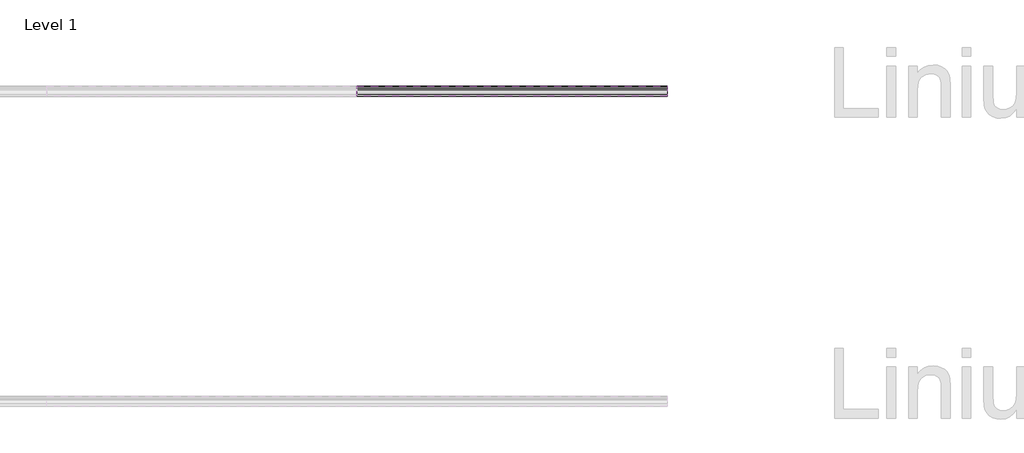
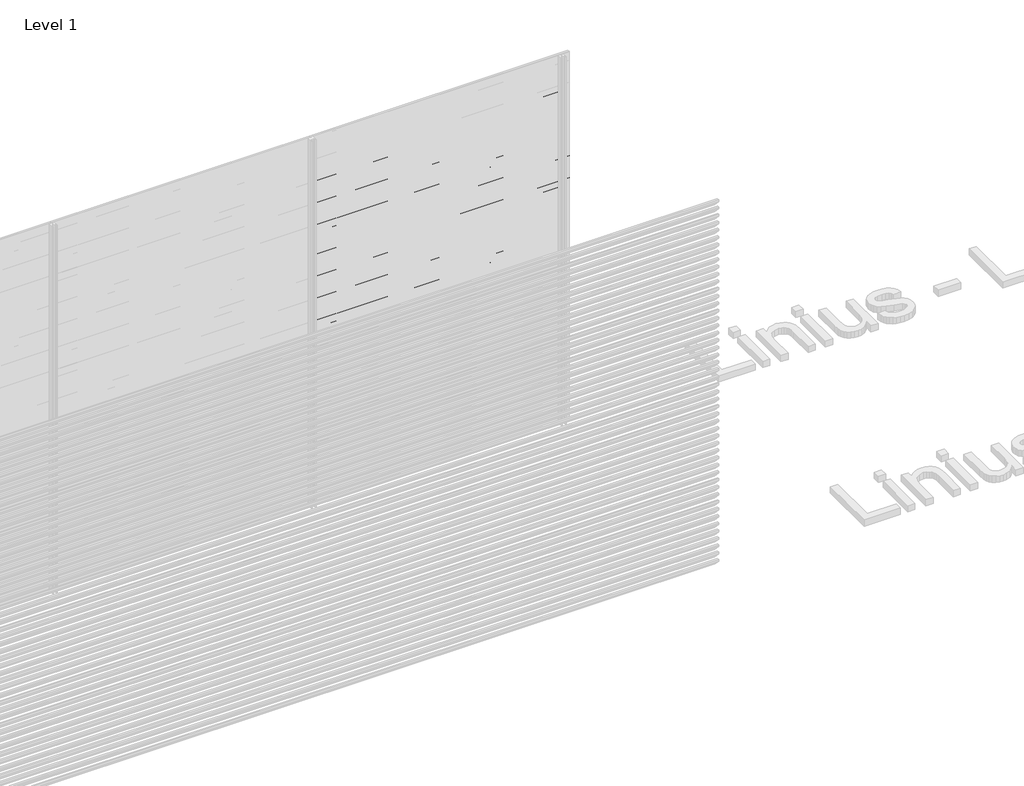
# One storey, part 122 of 153: 33 proxies.
"""IFC4 building model written with IfcOpenShell, lengths in millimetres."""

from ifc_helpers import new_model, si_unit, point, frame, frame_2d, origin, place, context, project, spatial, polyline, circle_curve, trimmed, segment, composite_curve, outline, extrude, element, save

model = new_model("IFC4")

# Units and contexts
model_context = context("Model", 3, world=origin())
ifc_project = project(units=[si_unit("LENGTHUNIT", "METRE", prefix="MILLI")], contexts=[model_context])

# Site, building, storey
site = spatial("IfcSite", under=ifc_project)
building = spatial("IfcBuilding", under=site)
storey = spatial("IfcBuildingStorey", under=building, Name="Level 1", Elevation=0.0)

# Proxies
placement = place(None, origin())
element("IfcBuildingElementProxy", 1, Name="Wall Sweeps", at=placement, inside=storey, context=model_context, shape_type="SweptSolid", body=[
    extrude(outline(composite_curve([segment(polyline([(58985.0540136, 2700.0), (58999.874191, 2698.7034025), (59049.0540136, 2645.0102749), (59049.0540136, 2633.6108187)]), True, "CONTINUOUS"), segment(trimmed(circle_curve(frame_2d((59045.7883652, 2633.897153)), 3.2781774), [point((59049.0540136, 2633.6108187))], [point((59046.4639442, 2630.6893438))], False, "CARTESIAN"), True, "CONTINUOUS"), segment(polyline([(59046.4639442, 2630.6893438), (59034.1895723, 2631.6282758), (58985.0540136, 2685.2730773), (58985.0540136, 2700.0)]), True, "CONTINUOUS")], self_intersect=False), holes=[composite_curve([segment(polyline([(58999.1621773, 2697.2599659), (58986.5540136, 2698.3630372), (58986.5540136, 2685.856213), (59034.8952036, 2633.0786805), (59046.3312542, 2632.2038762)]), True, "CONTINUOUS"), segment(trimmed(circle_curve(frame_2d((59045.7883652, 2633.897153)), 1.7781774), [point((59046.3312542, 2632.2038762))], [point((59047.5540136, 2633.6864389))], True, "CARTESIAN"), True, "CONTINUOUS"), segment(polyline([(59047.5540136, 2633.6864389), (59047.5540136, 2644.4271392), (58999.1621773, 2697.2599659)]), True, "CONTINUOUS")], self_intersect=False)]), frame((48966.6208096, 0.0, 0.0), z_axis=(1.0, 0.0, 0.0), x_axis=(0.0, 1.0, 0.0)), (0.0, 0.0, 1.0), 2000.0000001),
])
element("IfcBuildingElementProxy", 2, Name="Wall Sweeps", at=placement, inside=storey, context=model_context, shape_type="SweptSolid", body=[
    extrude(outline(composite_curve([segment(polyline([(58985.0540136, 2640.0), (58999.874191, 2638.7034025), (59049.0540136, 2585.0102749), (59049.0540136, 2573.6108187)]), True, "CONTINUOUS"), segment(trimmed(circle_curve(frame_2d((59045.7883652, 2573.897153)), 3.2781774), [point((59049.0540136, 2573.6108187))], [point((59046.4639442, 2570.6893438))], False, "CARTESIAN"), True, "CONTINUOUS"), segment(polyline([(59046.4639442, 2570.6893438), (59034.1895723, 2571.6282758), (58985.0540136, 2625.2730773), (58985.0540136, 2640.0)]), True, "CONTINUOUS")], self_intersect=False), holes=[composite_curve([segment(polyline([(58999.1621773, 2637.2599659), (58986.5540136, 2638.3630372), (58986.5540136, 2625.856213), (59034.8952036, 2573.0786805), (59046.3312542, 2572.2038762)]), True, "CONTINUOUS"), segment(trimmed(circle_curve(frame_2d((59045.7883652, 2573.897153)), 1.7781774), [point((59046.3312542, 2572.2038762))], [point((59047.5540136, 2573.6864389))], True, "CARTESIAN"), True, "CONTINUOUS"), segment(polyline([(59047.5540136, 2573.6864389), (59047.5540136, 2584.4271392), (58999.1621773, 2637.2599659)]), True, "CONTINUOUS")], self_intersect=False)]), frame((48966.6208096, 0.0, 0.0), z_axis=(1.0, 0.0, 0.0), x_axis=(0.0, 1.0, 0.0)), (0.0, 0.0, 1.0), 2000.0000001),
])
element("IfcBuildingElementProxy", 3, Name="Wall Sweeps", at=placement, inside=storey, context=model_context, shape_type="SweptSolid", body=[
    extrude(outline(composite_curve([segment(polyline([(58985.0540136, 2580.0), (58999.874191, 2578.7034025), (59049.0540136, 2525.0102749), (59049.0540136, 2513.6108187)]), True, "CONTINUOUS"), segment(trimmed(circle_curve(frame_2d((59045.7883652, 2513.897153)), 3.2781774), [point((59049.0540136, 2513.6108187))], [point((59046.4639442, 2510.6893438))], False, "CARTESIAN"), True, "CONTINUOUS"), segment(polyline([(59046.4639442, 2510.6893438), (59034.1895723, 2511.6282758), (58985.0540136, 2565.2730773), (58985.0540136, 2580.0)]), True, "CONTINUOUS")], self_intersect=False), holes=[composite_curve([segment(polyline([(58999.1621773, 2577.2599659), (58986.5540136, 2578.3630372), (58986.5540136, 2565.856213), (59034.8952036, 2513.0786805), (59046.3312542, 2512.2038762)]), True, "CONTINUOUS"), segment(trimmed(circle_curve(frame_2d((59045.7883652, 2513.897153)), 1.7781774), [point((59046.3312542, 2512.2038762))], [point((59047.5540136, 2513.6864389))], True, "CARTESIAN"), True, "CONTINUOUS"), segment(polyline([(59047.5540136, 2513.6864389), (59047.5540136, 2524.4271392), (58999.1621773, 2577.2599659)]), True, "CONTINUOUS")], self_intersect=False)]), frame((48966.6208096, 0.0, 0.0), z_axis=(1.0, 0.0, 0.0), x_axis=(0.0, 1.0, 0.0)), (0.0, 0.0, 1.0), 2000.0000001),
])
element("IfcBuildingElementProxy", 4, Name="Wall Sweeps", at=placement, inside=storey, context=model_context, shape_type="SweptSolid", body=[
    extrude(outline(composite_curve([segment(polyline([(58985.0540136, 2520.0), (58999.874191, 2518.7034025), (59049.0540136, 2465.0102749), (59049.0540136, 2453.6108187)]), True, "CONTINUOUS"), segment(trimmed(circle_curve(frame_2d((59045.7883652, 2453.897153)), 3.2781774), [point((59049.0540136, 2453.6108187))], [point((59046.4639442, 2450.6893438))], False, "CARTESIAN"), True, "CONTINUOUS"), segment(polyline([(59046.4639442, 2450.6893438), (59034.1895723, 2451.6282758), (58985.0540136, 2505.2730773), (58985.0540136, 2520.0)]), True, "CONTINUOUS")], self_intersect=False), holes=[composite_curve([segment(polyline([(58999.1621773, 2517.2599659), (58986.5540136, 2518.3630372), (58986.5540136, 2505.856213), (59034.8952036, 2453.0786805), (59046.3312542, 2452.2038762)]), True, "CONTINUOUS"), segment(trimmed(circle_curve(frame_2d((59045.7883652, 2453.897153)), 1.7781774), [point((59046.3312542, 2452.2038762))], [point((59047.5540136, 2453.6864389))], True, "CARTESIAN"), True, "CONTINUOUS"), segment(polyline([(59047.5540136, 2453.6864389), (59047.5540136, 2464.4271392), (58999.1621773, 2517.2599659)]), True, "CONTINUOUS")], self_intersect=False)]), frame((48966.6208096, 0.0, 0.0), z_axis=(1.0, 0.0, 0.0), x_axis=(0.0, 1.0, 0.0)), (0.0, 0.0, 1.0), 2000.0000001),
])
element("IfcBuildingElementProxy", 5, Name="Wall Sweeps", at=placement, inside=storey, context=model_context, shape_type="SweptSolid", body=[
    extrude(outline(composite_curve([segment(polyline([(58985.0540136, 2460.0), (58999.874191, 2458.7034025), (59049.0540136, 2405.0102749), (59049.0540136, 2393.6108187)]), True, "CONTINUOUS"), segment(trimmed(circle_curve(frame_2d((59045.7883652, 2393.897153)), 3.2781774), [point((59049.0540136, 2393.6108187))], [point((59046.4639442, 2390.6893438))], False, "CARTESIAN"), True, "CONTINUOUS"), segment(polyline([(59046.4639442, 2390.6893438), (59034.1895723, 2391.6282758), (58985.0540136, 2445.2730773), (58985.0540136, 2460.0)]), True, "CONTINUOUS")], self_intersect=False), holes=[composite_curve([segment(polyline([(58999.1621773, 2457.2599659), (58986.5540136, 2458.3630372), (58986.5540136, 2445.856213), (59034.8952036, 2393.0786805), (59046.3312542, 2392.2038762)]), True, "CONTINUOUS"), segment(trimmed(circle_curve(frame_2d((59045.7883652, 2393.897153)), 1.7781774), [point((59046.3312542, 2392.2038762))], [point((59047.5540136, 2393.6864389))], True, "CARTESIAN"), True, "CONTINUOUS"), segment(polyline([(59047.5540136, 2393.6864389), (59047.5540136, 2404.4271392), (58999.1621773, 2457.2599659)]), True, "CONTINUOUS")], self_intersect=False)]), frame((48966.6208096, 0.0, 0.0), z_axis=(1.0, 0.0, 0.0), x_axis=(0.0, 1.0, 0.0)), (0.0, 0.0, 1.0), 2000.0000001),
])
element("IfcBuildingElementProxy", 6, Name="Wall Sweeps", at=placement, inside=storey, context=model_context, shape_type="SweptSolid", body=[
    extrude(outline(composite_curve([segment(polyline([(58985.0540136, 2400.0), (58999.874191, 2398.7034025), (59049.0540136, 2345.0102749), (59049.0540136, 2333.6108187)]), True, "CONTINUOUS"), segment(trimmed(circle_curve(frame_2d((59045.7883652, 2333.897153)), 3.2781774), [point((59049.0540136, 2333.6108187))], [point((59046.4639442, 2330.6893438))], False, "CARTESIAN"), True, "CONTINUOUS"), segment(polyline([(59046.4639442, 2330.6893438), (59034.1895723, 2331.6282758), (58985.0540136, 2385.2730773), (58985.0540136, 2400.0)]), True, "CONTINUOUS")], self_intersect=False), holes=[composite_curve([segment(polyline([(58999.1621773, 2397.2599659), (58986.5540136, 2398.3630372), (58986.5540136, 2385.856213), (59034.8952036, 2333.0786805), (59046.3312542, 2332.2038762)]), True, "CONTINUOUS"), segment(trimmed(circle_curve(frame_2d((59045.7883652, 2333.897153)), 1.7781774), [point((59046.3312542, 2332.2038762))], [point((59047.5540136, 2333.6864389))], True, "CARTESIAN"), True, "CONTINUOUS"), segment(polyline([(59047.5540136, 2333.6864389), (59047.5540136, 2344.4271392), (58999.1621773, 2397.2599659)]), True, "CONTINUOUS")], self_intersect=False)]), frame((48966.6208096, 0.0, 0.0), z_axis=(1.0, 0.0, 0.0), x_axis=(0.0, 1.0, 0.0)), (0.0, 0.0, 1.0), 2000.0000001),
])
element("IfcBuildingElementProxy", 7, Name="Wall Sweeps", at=placement, inside=storey, context=model_context, shape_type="SweptSolid", body=[
    extrude(outline(composite_curve([segment(polyline([(58985.0540136, 2340.0), (58999.874191, 2338.7034025), (59049.0540136, 2285.0102749), (59049.0540136, 2273.6108187)]), True, "CONTINUOUS"), segment(trimmed(circle_curve(frame_2d((59045.7883652, 2273.897153)), 3.2781774), [point((59049.0540136, 2273.6108187))], [point((59046.4639442, 2270.6893438))], False, "CARTESIAN"), True, "CONTINUOUS"), segment(polyline([(59046.4639442, 2270.6893438), (59034.1895723, 2271.6282758), (58985.0540136, 2325.2730773), (58985.0540136, 2340.0)]), True, "CONTINUOUS")], self_intersect=False), holes=[composite_curve([segment(polyline([(58999.1621773, 2337.2599659), (58986.5540136, 2338.3630372), (58986.5540136, 2325.856213), (59034.8952036, 2273.0786805), (59046.3312542, 2272.2038762)]), True, "CONTINUOUS"), segment(trimmed(circle_curve(frame_2d((59045.7883652, 2273.897153)), 1.7781774), [point((59046.3312542, 2272.2038762))], [point((59047.5540136, 2273.6864389))], True, "CARTESIAN"), True, "CONTINUOUS"), segment(polyline([(59047.5540136, 2273.6864389), (59047.5540136, 2284.4271392), (58999.1621773, 2337.2599659)]), True, "CONTINUOUS")], self_intersect=False)]), frame((48966.6208096, 0.0, 0.0), z_axis=(1.0, 0.0, 0.0), x_axis=(0.0, 1.0, 0.0)), (0.0, 0.0, 1.0), 2000.0000001),
])
element("IfcBuildingElementProxy", 8, Name="Wall Sweeps", at=placement, inside=storey, context=model_context, shape_type="SweptSolid", body=[
    extrude(outline(composite_curve([segment(polyline([(58985.0540136, 2280.0), (58999.874191, 2278.7034025), (59049.0540136, 2225.0102749), (59049.0540136, 2213.6108187)]), True, "CONTINUOUS"), segment(trimmed(circle_curve(frame_2d((59045.7883652, 2213.897153)), 3.2781774), [point((59049.0540136, 2213.6108187))], [point((59046.4639442, 2210.6893438))], False, "CARTESIAN"), True, "CONTINUOUS"), segment(polyline([(59046.4639442, 2210.6893438), (59034.1895723, 2211.6282758), (58985.0540136, 2265.2730773), (58985.0540136, 2280.0)]), True, "CONTINUOUS")], self_intersect=False), holes=[composite_curve([segment(polyline([(58999.1621773, 2277.2599659), (58986.5540136, 2278.3630372), (58986.5540136, 2265.856213), (59034.8952036, 2213.0786805), (59046.3312542, 2212.2038762)]), True, "CONTINUOUS"), segment(trimmed(circle_curve(frame_2d((59045.7883652, 2213.897153)), 1.7781774), [point((59046.3312542, 2212.2038762))], [point((59047.5540136, 2213.6864389))], True, "CARTESIAN"), True, "CONTINUOUS"), segment(polyline([(59047.5540136, 2213.6864389), (59047.5540136, 2224.4271392), (58999.1621773, 2277.2599659)]), True, "CONTINUOUS")], self_intersect=False)]), frame((48966.6208096, 0.0, 0.0), z_axis=(1.0, 0.0, 0.0), x_axis=(0.0, 1.0, 0.0)), (0.0, 0.0, 1.0), 2000.0000001),
])
element("IfcBuildingElementProxy", 9, Name="Wall Sweeps", at=placement, inside=storey, context=model_context, shape_type="SweptSolid", body=[
    extrude(outline(composite_curve([segment(polyline([(58985.0540136, 2220.0), (58999.874191, 2218.7034025), (59049.0540136, 2165.0102749), (59049.0540136, 2153.6108187)]), True, "CONTINUOUS"), segment(trimmed(circle_curve(frame_2d((59045.7883652, 2153.897153)), 3.2781774), [point((59049.0540136, 2153.6108187))], [point((59046.4639442, 2150.6893438))], False, "CARTESIAN"), True, "CONTINUOUS"), segment(polyline([(59046.4639442, 2150.6893438), (59034.1895723, 2151.6282758), (58985.0540136, 2205.2730773), (58985.0540136, 2220.0)]), True, "CONTINUOUS")], self_intersect=False), holes=[composite_curve([segment(polyline([(58999.1621773, 2217.2599659), (58986.5540136, 2218.3630372), (58986.5540136, 2205.856213), (59034.8952036, 2153.0786805), (59046.3312542, 2152.2038762)]), True, "CONTINUOUS"), segment(trimmed(circle_curve(frame_2d((59045.7883652, 2153.897153)), 1.7781774), [point((59046.3312542, 2152.2038762))], [point((59047.5540136, 2153.6864389))], True, "CARTESIAN"), True, "CONTINUOUS"), segment(polyline([(59047.5540136, 2153.6864389), (59047.5540136, 2164.4271392), (58999.1621773, 2217.2599659)]), True, "CONTINUOUS")], self_intersect=False)]), frame((48966.6208096, 0.0, 0.0), z_axis=(1.0, 0.0, 0.0), x_axis=(0.0, 1.0, 0.0)), (0.0, 0.0, 1.0), 2000.0000001),
])
element("IfcBuildingElementProxy", 10, Name="Wall Sweeps", at=placement, inside=storey, context=model_context, shape_type="SweptSolid", body=[
    extrude(outline(composite_curve([segment(polyline([(58985.0540136, 2160.0), (58999.874191, 2158.7034025), (59049.0540136, 2105.0102749), (59049.0540136, 2093.6108187)]), True, "CONTINUOUS"), segment(trimmed(circle_curve(frame_2d((59045.7883652, 2093.897153)), 3.2781774), [point((59049.0540136, 2093.6108187))], [point((59046.4639442, 2090.6893438))], False, "CARTESIAN"), True, "CONTINUOUS"), segment(polyline([(59046.4639442, 2090.6893438), (59034.1895723, 2091.6282758), (58985.0540136, 2145.2730773), (58985.0540136, 2160.0)]), True, "CONTINUOUS")], self_intersect=False), holes=[composite_curve([segment(polyline([(58999.1621773, 2157.2599659), (58986.5540136, 2158.3630372), (58986.5540136, 2145.856213), (59034.8952036, 2093.0786805), (59046.3312542, 2092.2038762)]), True, "CONTINUOUS"), segment(trimmed(circle_curve(frame_2d((59045.7883652, 2093.897153)), 1.7781774), [point((59046.3312542, 2092.2038762))], [point((59047.5540136, 2093.6864389))], True, "CARTESIAN"), True, "CONTINUOUS"), segment(polyline([(59047.5540136, 2093.6864389), (59047.5540136, 2104.4271392), (58999.1621773, 2157.2599659)]), True, "CONTINUOUS")], self_intersect=False)]), frame((48966.6208096, 0.0, 0.0), z_axis=(1.0, 0.0, 0.0), x_axis=(0.0, 1.0, 0.0)), (0.0, 0.0, 1.0), 2000.0000001),
])
element("IfcBuildingElementProxy", 11, Name="Wall Sweeps", at=placement, inside=storey, context=model_context, shape_type="SweptSolid", body=[
    extrude(outline(composite_curve([segment(polyline([(58985.0540136, 2100.0), (58999.874191, 2098.7034025), (59049.0540136, 2045.0102749), (59049.0540136, 2033.6108187)]), True, "CONTINUOUS"), segment(trimmed(circle_curve(frame_2d((59045.7883652, 2033.897153)), 3.2781774), [point((59049.0540136, 2033.6108187))], [point((59046.4639442, 2030.6893438))], False, "CARTESIAN"), True, "CONTINUOUS"), segment(polyline([(59046.4639442, 2030.6893438), (59034.1895723, 2031.6282758), (58985.0540136, 2085.2730773), (58985.0540136, 2100.0)]), True, "CONTINUOUS")], self_intersect=False), holes=[composite_curve([segment(polyline([(58999.1621773, 2097.2599659), (58986.5540136, 2098.3630372), (58986.5540136, 2085.856213), (59034.8952036, 2033.0786805), (59046.3312542, 2032.2038762)]), True, "CONTINUOUS"), segment(trimmed(circle_curve(frame_2d((59045.7883652, 2033.897153)), 1.7781774), [point((59046.3312542, 2032.2038762))], [point((59047.5540136, 2033.6864389))], True, "CARTESIAN"), True, "CONTINUOUS"), segment(polyline([(59047.5540136, 2033.6864389), (59047.5540136, 2044.4271392), (58999.1621773, 2097.2599659)]), True, "CONTINUOUS")], self_intersect=False)]), frame((48966.6208096, 0.0, 0.0), z_axis=(1.0, 0.0, 0.0), x_axis=(0.0, 1.0, 0.0)), (0.0, 0.0, 1.0), 2000.0000001),
])
element("IfcBuildingElementProxy", 12, Name="Wall Sweeps", at=placement, inside=storey, context=model_context, shape_type="SweptSolid", body=[
    extrude(outline(composite_curve([segment(polyline([(58985.0540136, 2040.0), (58999.874191, 2038.7034025), (59049.0540136, 1985.0102749), (59049.0540136, 1973.6108187)]), True, "CONTINUOUS"), segment(trimmed(circle_curve(frame_2d((59045.7883652, 1973.897153)), 3.2781774), [point((59049.0540136, 1973.6108187))], [point((59046.4639442, 1970.6893438))], False, "CARTESIAN"), True, "CONTINUOUS"), segment(polyline([(59046.4639442, 1970.6893438), (59034.1895723, 1971.6282758), (58985.0540136, 2025.2730773), (58985.0540136, 2040.0)]), True, "CONTINUOUS")], self_intersect=False), holes=[composite_curve([segment(polyline([(58999.1621773, 2037.2599659), (58986.5540136, 2038.3630372), (58986.5540136, 2025.856213), (59034.8952036, 1973.0786805), (59046.3312542, 1972.2038762)]), True, "CONTINUOUS"), segment(trimmed(circle_curve(frame_2d((59045.7883652, 1973.897153)), 1.7781774), [point((59046.3312542, 1972.2038762))], [point((59047.5540136, 1973.6864389))], True, "CARTESIAN"), True, "CONTINUOUS"), segment(polyline([(59047.5540136, 1973.6864389), (59047.5540136, 1984.4271392), (58999.1621773, 2037.2599659)]), True, "CONTINUOUS")], self_intersect=False)]), frame((48966.6208096, 0.0, 0.0), z_axis=(1.0, 0.0, 0.0), x_axis=(0.0, 1.0, 0.0)), (0.0, 0.0, 1.0), 2000.0000001),
])
element("IfcBuildingElementProxy", 13, Name="Wall Sweeps", at=placement, inside=storey, context=model_context, shape_type="SweptSolid", body=[
    extrude(outline(composite_curve([segment(polyline([(58985.0540136, 1980.0), (58999.874191, 1978.7034025), (59049.0540136, 1925.0102749), (59049.0540136, 1913.6108187)]), True, "CONTINUOUS"), segment(trimmed(circle_curve(frame_2d((59045.7883652, 1913.897153)), 3.2781774), [point((59049.0540136, 1913.6108187))], [point((59046.4639442, 1910.6893438))], False, "CARTESIAN"), True, "CONTINUOUS"), segment(polyline([(59046.4639442, 1910.6893438), (59034.1895723, 1911.6282758), (58985.0540136, 1965.2730773), (58985.0540136, 1980.0)]), True, "CONTINUOUS")], self_intersect=False), holes=[composite_curve([segment(polyline([(58999.1621773, 1977.2599659), (58986.5540136, 1978.3630372), (58986.5540136, 1965.856213), (59034.8952036, 1913.0786805), (59046.3312542, 1912.2038762)]), True, "CONTINUOUS"), segment(trimmed(circle_curve(frame_2d((59045.7883652, 1913.897153)), 1.7781774), [point((59046.3312542, 1912.2038762))], [point((59047.5540136, 1913.6864389))], True, "CARTESIAN"), True, "CONTINUOUS"), segment(polyline([(59047.5540136, 1913.6864389), (59047.5540136, 1924.4271392), (58999.1621773, 1977.2599659)]), True, "CONTINUOUS")], self_intersect=False)]), frame((48966.6208096, 0.0, 0.0), z_axis=(1.0, 0.0, 0.0), x_axis=(0.0, 1.0, 0.0)), (0.0, 0.0, 1.0), 2000.0000001),
])
element("IfcBuildingElementProxy", 14, Name="Wall Sweeps", at=placement, inside=storey, context=model_context, shape_type="SweptSolid", body=[
    extrude(outline(composite_curve([segment(polyline([(58985.0540136, 1920.0), (58999.874191, 1918.7034025), (59049.0540136, 1865.0102749), (59049.0540136, 1853.6108187)]), True, "CONTINUOUS"), segment(trimmed(circle_curve(frame_2d((59045.7883652, 1853.897153)), 3.2781774), [point((59049.0540136, 1853.6108187))], [point((59046.4639442, 1850.6893438))], False, "CARTESIAN"), True, "CONTINUOUS"), segment(polyline([(59046.4639442, 1850.6893438), (59034.1895723, 1851.6282758), (58985.0540136, 1905.2730773), (58985.0540136, 1920.0)]), True, "CONTINUOUS")], self_intersect=False), holes=[composite_curve([segment(polyline([(58999.1621773, 1917.2599659), (58986.5540136, 1918.3630372), (58986.5540136, 1905.856213), (59034.8952036, 1853.0786805), (59046.3312542, 1852.2038762)]), True, "CONTINUOUS"), segment(trimmed(circle_curve(frame_2d((59045.7883652, 1853.897153)), 1.7781774), [point((59046.3312542, 1852.2038762))], [point((59047.5540136, 1853.6864389))], True, "CARTESIAN"), True, "CONTINUOUS"), segment(polyline([(59047.5540136, 1853.6864389), (59047.5540136, 1864.4271392), (58999.1621773, 1917.2599659)]), True, "CONTINUOUS")], self_intersect=False)]), frame((48966.6208096, 0.0, 0.0), z_axis=(1.0, 0.0, 0.0), x_axis=(0.0, 1.0, 0.0)), (0.0, 0.0, 1.0), 2000.0000001),
])
element("IfcBuildingElementProxy", 15, Name="Wall Sweeps", at=placement, inside=storey, context=model_context, shape_type="SweptSolid", body=[
    extrude(outline(composite_curve([segment(polyline([(58985.0540136, 1860.0), (58999.874191, 1858.7034025), (59049.0540136, 1805.0102749), (59049.0540136, 1793.6108187)]), True, "CONTINUOUS"), segment(trimmed(circle_curve(frame_2d((59045.7883652, 1793.897153)), 3.2781774), [point((59049.0540136, 1793.6108187))], [point((59046.4639442, 1790.6893438))], False, "CARTESIAN"), True, "CONTINUOUS"), segment(polyline([(59046.4639442, 1790.6893438), (59034.1895723, 1791.6282758), (58985.0540136, 1845.2730773), (58985.0540136, 1860.0)]), True, "CONTINUOUS")], self_intersect=False), holes=[composite_curve([segment(polyline([(58999.1621773, 1857.2599659), (58986.5540136, 1858.3630372), (58986.5540136, 1845.856213), (59034.8952036, 1793.0786805), (59046.3312542, 1792.2038762)]), True, "CONTINUOUS"), segment(trimmed(circle_curve(frame_2d((59045.7883652, 1793.897153)), 1.7781774), [point((59046.3312542, 1792.2038762))], [point((59047.5540136, 1793.6864389))], True, "CARTESIAN"), True, "CONTINUOUS"), segment(polyline([(59047.5540136, 1793.6864389), (59047.5540136, 1804.4271392), (58999.1621773, 1857.2599659)]), True, "CONTINUOUS")], self_intersect=False)]), frame((48966.6208096, 0.0, 0.0), z_axis=(1.0, 0.0, 0.0), x_axis=(0.0, 1.0, 0.0)), (0.0, 0.0, 1.0), 2000.0000001),
])
element("IfcBuildingElementProxy", 16, Name="Wall Sweeps", at=placement, inside=storey, context=model_context, shape_type="SweptSolid", body=[
    extrude(outline(composite_curve([segment(polyline([(58985.0540136, 1800.0), (58999.874191, 1798.7034025), (59049.0540136, 1745.0102749), (59049.0540136, 1733.6108187)]), True, "CONTINUOUS"), segment(trimmed(circle_curve(frame_2d((59045.7883652, 1733.897153)), 3.2781774), [point((59049.0540136, 1733.6108187))], [point((59046.4639442, 1730.6893438))], False, "CARTESIAN"), True, "CONTINUOUS"), segment(polyline([(59046.4639442, 1730.6893438), (59034.1895723, 1731.6282758), (58985.0540136, 1785.2730773), (58985.0540136, 1800.0)]), True, "CONTINUOUS")], self_intersect=False), holes=[composite_curve([segment(polyline([(58999.1621773, 1797.2599659), (58986.5540136, 1798.3630372), (58986.5540136, 1785.856213), (59034.8952036, 1733.0786805), (59046.3312542, 1732.2038762)]), True, "CONTINUOUS"), segment(trimmed(circle_curve(frame_2d((59045.7883652, 1733.897153)), 1.7781774), [point((59046.3312542, 1732.2038762))], [point((59047.5540136, 1733.6864389))], True, "CARTESIAN"), True, "CONTINUOUS"), segment(polyline([(59047.5540136, 1733.6864389), (59047.5540136, 1744.4271392), (58999.1621773, 1797.2599659)]), True, "CONTINUOUS")], self_intersect=False)]), frame((48966.6208096, 0.0, 0.0), z_axis=(1.0, 0.0, 0.0), x_axis=(0.0, 1.0, 0.0)), (0.0, 0.0, 1.0), 2000.0000001),
])
element("IfcBuildingElementProxy", 17, Name="Wall Sweeps", at=placement, inside=storey, context=model_context, shape_type="SweptSolid", body=[
    extrude(outline(composite_curve([segment(polyline([(58985.0540136, 1740.0), (58999.874191, 1738.7034025), (59049.0540136, 1685.0102749), (59049.0540136, 1673.6108187)]), True, "CONTINUOUS"), segment(trimmed(circle_curve(frame_2d((59045.7883652, 1673.897153)), 3.2781774), [point((59049.0540136, 1673.6108187))], [point((59046.4639442, 1670.6893438))], False, "CARTESIAN"), True, "CONTINUOUS"), segment(polyline([(59046.4639442, 1670.6893438), (59034.1895723, 1671.6282758), (58985.0540136, 1725.2730773), (58985.0540136, 1740.0)]), True, "CONTINUOUS")], self_intersect=False), holes=[composite_curve([segment(polyline([(58999.1621773, 1737.2599659), (58986.5540136, 1738.3630372), (58986.5540136, 1725.856213), (59034.8952036, 1673.0786805), (59046.3312542, 1672.2038762)]), True, "CONTINUOUS"), segment(trimmed(circle_curve(frame_2d((59045.7883652, 1673.897153)), 1.7781774), [point((59046.3312542, 1672.2038762))], [point((59047.5540136, 1673.6864389))], True, "CARTESIAN"), True, "CONTINUOUS"), segment(polyline([(59047.5540136, 1673.6864389), (59047.5540136, 1684.4271392), (58999.1621773, 1737.2599659)]), True, "CONTINUOUS")], self_intersect=False)]), frame((48966.6208096, 0.0, 0.0), z_axis=(1.0, 0.0, 0.0), x_axis=(0.0, 1.0, 0.0)), (0.0, 0.0, 1.0), 2000.0000001),
])
element("IfcBuildingElementProxy", 18, Name="Wall Sweeps", at=placement, inside=storey, context=model_context, shape_type="SweptSolid", body=[
    extrude(outline(composite_curve([segment(polyline([(58985.0540136, 1680.0), (58999.874191, 1678.7034025), (59049.0540136, 1625.0102749), (59049.0540136, 1613.6108187)]), True, "CONTINUOUS"), segment(trimmed(circle_curve(frame_2d((59045.7883652, 1613.897153)), 3.2781774), [point((59049.0540136, 1613.6108187))], [point((59046.4639442, 1610.6893438))], False, "CARTESIAN"), True, "CONTINUOUS"), segment(polyline([(59046.4639442, 1610.6893438), (59034.1895723, 1611.6282758), (58985.0540136, 1665.2730773), (58985.0540136, 1680.0)]), True, "CONTINUOUS")], self_intersect=False), holes=[composite_curve([segment(polyline([(58999.1621773, 1677.2599659), (58986.5540136, 1678.3630372), (58986.5540136, 1665.856213), (59034.8952036, 1613.0786805), (59046.3312542, 1612.2038762)]), True, "CONTINUOUS"), segment(trimmed(circle_curve(frame_2d((59045.7883652, 1613.897153)), 1.7781774), [point((59046.3312542, 1612.2038762))], [point((59047.5540136, 1613.6864389))], True, "CARTESIAN"), True, "CONTINUOUS"), segment(polyline([(59047.5540136, 1613.6864389), (59047.5540136, 1624.4271392), (58999.1621773, 1677.2599659)]), True, "CONTINUOUS")], self_intersect=False)]), frame((48966.6208096, 0.0, 0.0), z_axis=(1.0, 0.0, 0.0), x_axis=(0.0, 1.0, 0.0)), (0.0, 0.0, 1.0), 2000.0000001),
])
element("IfcBuildingElementProxy", 19, Name="Wall Sweeps", at=placement, inside=storey, context=model_context, shape_type="SweptSolid", body=[
    extrude(outline(composite_curve([segment(polyline([(58985.0540136, 1620.0), (58999.874191, 1618.7034025), (59049.0540136, 1565.0102749), (59049.0540136, 1553.6108187)]), True, "CONTINUOUS"), segment(trimmed(circle_curve(frame_2d((59045.7883652, 1553.897153)), 3.2781774), [point((59049.0540136, 1553.6108187))], [point((59046.4639442, 1550.6893438))], False, "CARTESIAN"), True, "CONTINUOUS"), segment(polyline([(59046.4639442, 1550.6893438), (59034.1895723, 1551.6282758), (58985.0540136, 1605.2730773), (58985.0540136, 1620.0)]), True, "CONTINUOUS")], self_intersect=False), holes=[composite_curve([segment(polyline([(58999.1621773, 1617.2599659), (58986.5540136, 1618.3630372), (58986.5540136, 1605.856213), (59034.8952036, 1553.0786805), (59046.3312542, 1552.2038762)]), True, "CONTINUOUS"), segment(trimmed(circle_curve(frame_2d((59045.7883652, 1553.897153)), 1.7781774), [point((59046.3312542, 1552.2038762))], [point((59047.5540136, 1553.6864389))], True, "CARTESIAN"), True, "CONTINUOUS"), segment(polyline([(59047.5540136, 1553.6864389), (59047.5540136, 1564.4271392), (58999.1621773, 1617.2599659)]), True, "CONTINUOUS")], self_intersect=False)]), frame((48966.6208096, 0.0, 0.0), z_axis=(1.0, 0.0, 0.0), x_axis=(0.0, 1.0, 0.0)), (0.0, 0.0, 1.0), 2000.0000001),
])
element("IfcBuildingElementProxy", 20, Name="Wall Sweeps", at=placement, inside=storey, context=model_context, shape_type="SweptSolid", body=[
    extrude(outline(composite_curve([segment(polyline([(58985.0540136, 1560.0), (58999.874191, 1558.7034025), (59049.0540136, 1505.0102749), (59049.0540136, 1493.6108187)]), True, "CONTINUOUS"), segment(trimmed(circle_curve(frame_2d((59045.7883652, 1493.897153)), 3.2781774), [point((59049.0540136, 1493.6108187))], [point((59046.4639442, 1490.6893438))], False, "CARTESIAN"), True, "CONTINUOUS"), segment(polyline([(59046.4639442, 1490.6893438), (59034.1895723, 1491.6282758), (58985.0540136, 1545.2730773), (58985.0540136, 1560.0)]), True, "CONTINUOUS")], self_intersect=False), holes=[composite_curve([segment(polyline([(58999.1621773, 1557.2599659), (58986.5540136, 1558.3630372), (58986.5540136, 1545.856213), (59034.8952036, 1493.0786805), (59046.3312542, 1492.2038762)]), True, "CONTINUOUS"), segment(trimmed(circle_curve(frame_2d((59045.7883652, 1493.897153)), 1.7781774), [point((59046.3312542, 1492.2038762))], [point((59047.5540136, 1493.6864389))], True, "CARTESIAN"), True, "CONTINUOUS"), segment(polyline([(59047.5540136, 1493.6864389), (59047.5540136, 1504.4271392), (58999.1621773, 1557.2599659)]), True, "CONTINUOUS")], self_intersect=False)]), frame((48966.6208096, 0.0, 0.0), z_axis=(1.0, 0.0, 0.0), x_axis=(0.0, 1.0, 0.0)), (0.0, 0.0, 1.0), 2000.0000001),
])
element("IfcBuildingElementProxy", 21, Name="Wall Sweeps", at=placement, inside=storey, context=model_context, shape_type="SweptSolid", body=[
    extrude(outline(composite_curve([segment(polyline([(58985.0540136, 1500.0), (58999.874191, 1498.7034025), (59049.0540136, 1445.0102749), (59049.0540136, 1433.6108187)]), True, "CONTINUOUS"), segment(trimmed(circle_curve(frame_2d((59045.7883652, 1433.897153)), 3.2781774), [point((59049.0540136, 1433.6108187))], [point((59046.4639442, 1430.6893438))], False, "CARTESIAN"), True, "CONTINUOUS"), segment(polyline([(59046.4639442, 1430.6893438), (59034.1895723, 1431.6282758), (58985.0540136, 1485.2730773), (58985.0540136, 1500.0)]), True, "CONTINUOUS")], self_intersect=False), holes=[composite_curve([segment(polyline([(58999.1621773, 1497.2599659), (58986.5540136, 1498.3630372), (58986.5540136, 1485.856213), (59034.8952036, 1433.0786805), (59046.3312542, 1432.2038762)]), True, "CONTINUOUS"), segment(trimmed(circle_curve(frame_2d((59045.7883652, 1433.897153)), 1.7781774), [point((59046.3312542, 1432.2038762))], [point((59047.5540136, 1433.6864389))], True, "CARTESIAN"), True, "CONTINUOUS"), segment(polyline([(59047.5540136, 1433.6864389), (59047.5540136, 1444.4271392), (58999.1621773, 1497.2599659)]), True, "CONTINUOUS")], self_intersect=False)]), frame((48966.6208096, 0.0, 0.0), z_axis=(1.0, 0.0, 0.0), x_axis=(0.0, 1.0, 0.0)), (0.0, 0.0, 1.0), 2000.0000001),
])
element("IfcBuildingElementProxy", 22, Name="Wall Sweeps", at=placement, inside=storey, context=model_context, shape_type="SweptSolid", body=[
    extrude(outline(composite_curve([segment(polyline([(58985.0540136, 1440.0), (58999.874191, 1438.7034025), (59049.0540136, 1385.0102749), (59049.0540136, 1373.6108187)]), True, "CONTINUOUS"), segment(trimmed(circle_curve(frame_2d((59045.7883652, 1373.897153)), 3.2781774), [point((59049.0540136, 1373.6108187))], [point((59046.4639442, 1370.6893438))], False, "CARTESIAN"), True, "CONTINUOUS"), segment(polyline([(59046.4639442, 1370.6893438), (59034.1895723, 1371.6282758), (58985.0540136, 1425.2730773), (58985.0540136, 1440.0)]), True, "CONTINUOUS")], self_intersect=False), holes=[composite_curve([segment(polyline([(58999.1621773, 1437.2599659), (58986.5540136, 1438.3630372), (58986.5540136, 1425.856213), (59034.8952036, 1373.0786805), (59046.3312542, 1372.2038762)]), True, "CONTINUOUS"), segment(trimmed(circle_curve(frame_2d((59045.7883652, 1373.897153)), 1.7781774), [point((59046.3312542, 1372.2038762))], [point((59047.5540136, 1373.6864389))], True, "CARTESIAN"), True, "CONTINUOUS"), segment(polyline([(59047.5540136, 1373.6864389), (59047.5540136, 1384.4271392), (58999.1621773, 1437.2599659)]), True, "CONTINUOUS")], self_intersect=False)]), frame((48966.6208096, 0.0, 0.0), z_axis=(1.0, 0.0, 0.0), x_axis=(0.0, 1.0, 0.0)), (0.0, 0.0, 1.0), 2000.0000001),
])
element("IfcBuildingElementProxy", 23, Name="Wall Sweeps", at=placement, inside=storey, context=model_context, shape_type="SweptSolid", body=[
    extrude(outline(composite_curve([segment(polyline([(58985.0540136, 1380.0), (58999.874191, 1378.7034025), (59049.0540136, 1325.0102749), (59049.0540136, 1313.6108187)]), True, "CONTINUOUS"), segment(trimmed(circle_curve(frame_2d((59045.7883652, 1313.897153)), 3.2781774), [point((59049.0540136, 1313.6108187))], [point((59046.4639442, 1310.6893438))], False, "CARTESIAN"), True, "CONTINUOUS"), segment(polyline([(59046.4639442, 1310.6893438), (59034.1895723, 1311.6282758), (58985.0540136, 1365.2730773), (58985.0540136, 1380.0)]), True, "CONTINUOUS")], self_intersect=False), holes=[composite_curve([segment(polyline([(58999.1621773, 1377.2599659), (58986.5540136, 1378.3630372), (58986.5540136, 1365.856213), (59034.8952036, 1313.0786805), (59046.3312542, 1312.2038762)]), True, "CONTINUOUS"), segment(trimmed(circle_curve(frame_2d((59045.7883652, 1313.897153)), 1.7781774), [point((59046.3312542, 1312.2038762))], [point((59047.5540136, 1313.6864389))], True, "CARTESIAN"), True, "CONTINUOUS"), segment(polyline([(59047.5540136, 1313.6864389), (59047.5540136, 1324.4271392), (58999.1621773, 1377.2599659)]), True, "CONTINUOUS")], self_intersect=False)]), frame((48966.6208096, 0.0, 0.0), z_axis=(1.0, 0.0, 0.0), x_axis=(0.0, 1.0, 0.0)), (0.0, 0.0, 1.0), 2000.0000001),
])
element("IfcBuildingElementProxy", 24, Name="Wall Sweeps", at=placement, inside=storey, context=model_context, shape_type="SweptSolid", body=[
    extrude(outline(composite_curve([segment(polyline([(58985.0540136, 1320.0), (58999.874191, 1318.7034025), (59049.0540136, 1265.0102749), (59049.0540136, 1253.6108187)]), True, "CONTINUOUS"), segment(trimmed(circle_curve(frame_2d((59045.7883652, 1253.897153)), 3.2781774), [point((59049.0540136, 1253.6108187))], [point((59046.4639442, 1250.6893438))], False, "CARTESIAN"), True, "CONTINUOUS"), segment(polyline([(59046.4639442, 1250.6893438), (59034.1895723, 1251.6282758), (58985.0540136, 1305.2730773), (58985.0540136, 1320.0)]), True, "CONTINUOUS")], self_intersect=False), holes=[composite_curve([segment(polyline([(58999.1621773, 1317.2599659), (58986.5540136, 1318.3630372), (58986.5540136, 1305.856213), (59034.8952036, 1253.0786805), (59046.3312542, 1252.2038762)]), True, "CONTINUOUS"), segment(trimmed(circle_curve(frame_2d((59045.7883652, 1253.897153)), 1.7781774), [point((59046.3312542, 1252.2038762))], [point((59047.5540136, 1253.6864389))], True, "CARTESIAN"), True, "CONTINUOUS"), segment(polyline([(59047.5540136, 1253.6864389), (59047.5540136, 1264.4271392), (58999.1621773, 1317.2599659)]), True, "CONTINUOUS")], self_intersect=False)]), frame((48966.6208096, 0.0, 0.0), z_axis=(1.0, 0.0, 0.0), x_axis=(0.0, 1.0, 0.0)), (0.0, 0.0, 1.0), 2000.0000001),
])
element("IfcBuildingElementProxy", 25, Name="Wall Sweeps", at=placement, inside=storey, context=model_context, shape_type="SweptSolid", body=[
    extrude(outline(composite_curve([segment(polyline([(58985.0540136, 1260.0), (58999.874191, 1258.7034025), (59049.0540136, 1205.0102749), (59049.0540136, 1193.6108187)]), True, "CONTINUOUS"), segment(trimmed(circle_curve(frame_2d((59045.7883652, 1193.897153)), 3.2781774), [point((59049.0540136, 1193.6108187))], [point((59046.4639442, 1190.6893438))], False, "CARTESIAN"), True, "CONTINUOUS"), segment(polyline([(59046.4639442, 1190.6893438), (59034.1895723, 1191.6282758), (58985.0540136, 1245.2730773), (58985.0540136, 1260.0)]), True, "CONTINUOUS")], self_intersect=False), holes=[composite_curve([segment(polyline([(58999.1621773, 1257.2599659), (58986.5540136, 1258.3630372), (58986.5540136, 1245.856213), (59034.8952036, 1193.0786805), (59046.3312542, 1192.2038762)]), True, "CONTINUOUS"), segment(trimmed(circle_curve(frame_2d((59045.7883652, 1193.897153)), 1.7781774), [point((59046.3312542, 1192.2038762))], [point((59047.5540136, 1193.6864389))], True, "CARTESIAN"), True, "CONTINUOUS"), segment(polyline([(59047.5540136, 1193.6864389), (59047.5540136, 1204.4271392), (58999.1621773, 1257.2599659)]), True, "CONTINUOUS")], self_intersect=False)]), frame((48966.6208096, 0.0, 0.0), z_axis=(1.0, 0.0, 0.0), x_axis=(0.0, 1.0, 0.0)), (0.0, 0.0, 1.0), 2000.0000001),
])
element("IfcBuildingElementProxy", 26, Name="Wall Sweeps", at=placement, inside=storey, context=model_context, shape_type="SweptSolid", body=[
    extrude(outline(composite_curve([segment(polyline([(58985.0540136, 1200.0), (58999.874191, 1198.7034025), (59049.0540136, 1145.0102749), (59049.0540136, 1133.6108187)]), True, "CONTINUOUS"), segment(trimmed(circle_curve(frame_2d((59045.7883652, 1133.897153)), 3.2781774), [point((59049.0540136, 1133.6108187))], [point((59046.4639442, 1130.6893438))], False, "CARTESIAN"), True, "CONTINUOUS"), segment(polyline([(59046.4639442, 1130.6893438), (59034.1895723, 1131.6282758), (58985.0540136, 1185.2730773), (58985.0540136, 1200.0)]), True, "CONTINUOUS")], self_intersect=False), holes=[composite_curve([segment(polyline([(58999.1621773, 1197.2599659), (58986.5540136, 1198.3630372), (58986.5540136, 1185.856213), (59034.8952036, 1133.0786805), (59046.3312542, 1132.2038762)]), True, "CONTINUOUS"), segment(trimmed(circle_curve(frame_2d((59045.7883652, 1133.897153)), 1.7781774), [point((59046.3312542, 1132.2038762))], [point((59047.5540136, 1133.6864389))], True, "CARTESIAN"), True, "CONTINUOUS"), segment(polyline([(59047.5540136, 1133.6864389), (59047.5540136, 1144.4271392), (58999.1621773, 1197.2599659)]), True, "CONTINUOUS")], self_intersect=False)]), frame((48966.6208096, 0.0, 0.0), z_axis=(1.0, 0.0, 0.0), x_axis=(0.0, 1.0, 0.0)), (0.0, 0.0, 1.0), 2000.0000001),
])
element("IfcBuildingElementProxy", 27, Name="Wall Sweeps", at=placement, inside=storey, context=model_context, shape_type="SweptSolid", body=[
    extrude(outline(composite_curve([segment(polyline([(58985.0540136, 1140.0), (58999.874191, 1138.7034025), (59049.0540136, 1085.0102749), (59049.0540136, 1073.6108187)]), True, "CONTINUOUS"), segment(trimmed(circle_curve(frame_2d((59045.7883652, 1073.897153)), 3.2781774), [point((59049.0540136, 1073.6108187))], [point((59046.4639442, 1070.6893438))], False, "CARTESIAN"), True, "CONTINUOUS"), segment(polyline([(59046.4639442, 1070.6893438), (59034.1895723, 1071.6282758), (58985.0540136, 1125.2730773), (58985.0540136, 1140.0)]), True, "CONTINUOUS")], self_intersect=False), holes=[composite_curve([segment(polyline([(58999.1621773, 1137.2599659), (58986.5540136, 1138.3630372), (58986.5540136, 1125.856213), (59034.8952036, 1073.0786805), (59046.3312542, 1072.2038762)]), True, "CONTINUOUS"), segment(trimmed(circle_curve(frame_2d((59045.7883652, 1073.897153)), 1.7781774), [point((59046.3312542, 1072.2038762))], [point((59047.5540136, 1073.6864389))], True, "CARTESIAN"), True, "CONTINUOUS"), segment(polyline([(59047.5540136, 1073.6864389), (59047.5540136, 1084.4271392), (58999.1621773, 1137.2599659)]), True, "CONTINUOUS")], self_intersect=False)]), frame((48966.6208096, 0.0, 0.0), z_axis=(1.0, 0.0, 0.0), x_axis=(0.0, 1.0, 0.0)), (0.0, 0.0, 1.0), 2000.0000001),
])
element("IfcBuildingElementProxy", 28, Name="Wall Sweeps", at=placement, inside=storey, context=model_context, shape_type="SweptSolid", body=[
    extrude(outline(composite_curve([segment(polyline([(58985.0540136, 1080.0), (58999.874191, 1078.7034025), (59049.0540136, 1025.0102749), (59049.0540136, 1013.6108187)]), True, "CONTINUOUS"), segment(trimmed(circle_curve(frame_2d((59045.7883652, 1013.897153)), 3.2781774), [point((59049.0540136, 1013.6108187))], [point((59046.4639442, 1010.6893438))], False, "CARTESIAN"), True, "CONTINUOUS"), segment(polyline([(59046.4639442, 1010.6893438), (59034.1895723, 1011.6282758), (58985.0540136, 1065.2730773), (58985.0540136, 1080.0)]), True, "CONTINUOUS")], self_intersect=False), holes=[composite_curve([segment(polyline([(58999.1621773, 1077.2599659), (58986.5540136, 1078.3630372), (58986.5540136, 1065.856213), (59034.8952036, 1013.0786805), (59046.3312542, 1012.2038762)]), True, "CONTINUOUS"), segment(trimmed(circle_curve(frame_2d((59045.7883652, 1013.897153)), 1.7781774), [point((59046.3312542, 1012.2038762))], [point((59047.5540136, 1013.6864389))], True, "CARTESIAN"), True, "CONTINUOUS"), segment(polyline([(59047.5540136, 1013.6864389), (59047.5540136, 1024.4271392), (58999.1621773, 1077.2599659)]), True, "CONTINUOUS")], self_intersect=False)]), frame((48966.6208096, 0.0, 0.0), z_axis=(1.0, 0.0, 0.0), x_axis=(0.0, 1.0, 0.0)), (0.0, 0.0, 1.0), 2000.0000001),
])
element("IfcBuildingElementProxy", 29, Name="Wall Sweeps", at=placement, inside=storey, context=model_context, shape_type="SweptSolid", body=[
    extrude(outline(composite_curve([segment(polyline([(58985.0540136, 1020.0), (58999.874191, 1018.7034025), (59049.0540136, 965.0102749), (59049.0540136, 953.6108187)]), True, "CONTINUOUS"), segment(trimmed(circle_curve(frame_2d((59045.7883652, 953.897153)), 3.2781774), [point((59049.0540136, 953.6108187))], [point((59046.4639442, 950.6893438))], False, "CARTESIAN"), True, "CONTINUOUS"), segment(polyline([(59046.4639442, 950.6893438), (59034.1895723, 951.6282758), (58985.0540136, 1005.2730773), (58985.0540136, 1020.0)]), True, "CONTINUOUS")], self_intersect=False), holes=[composite_curve([segment(polyline([(58999.1621773, 1017.2599659), (58986.5540136, 1018.3630372), (58986.5540136, 1005.856213), (59034.8952036, 953.0786805), (59046.3312542, 952.2038762)]), True, "CONTINUOUS"), segment(trimmed(circle_curve(frame_2d((59045.7883652, 953.897153)), 1.7781774), [point((59046.3312542, 952.2038762))], [point((59047.5540136, 953.6864389))], True, "CARTESIAN"), True, "CONTINUOUS"), segment(polyline([(59047.5540136, 953.6864389), (59047.5540136, 964.4271392), (58999.1621773, 1017.2599659)]), True, "CONTINUOUS")], self_intersect=False)]), frame((48966.6208096, 0.0, 0.0), z_axis=(1.0, 0.0, 0.0), x_axis=(0.0, 1.0, 0.0)), (0.0, 0.0, 1.0), 2000.0000001),
])
element("IfcBuildingElementProxy", 30, Name="Wall Sweeps", at=placement, inside=storey, context=model_context, shape_type="SweptSolid", body=[
    extrude(outline(composite_curve([segment(polyline([(58985.0540136, 960.0), (58999.874191, 958.7034025), (59049.0540136, 905.0102749), (59049.0540136, 893.6108187)]), True, "CONTINUOUS"), segment(trimmed(circle_curve(frame_2d((59045.7883652, 893.897153)), 3.2781774), [point((59049.0540136, 893.6108187))], [point((59046.4639442, 890.6893438))], False, "CARTESIAN"), True, "CONTINUOUS"), segment(polyline([(59046.4639442, 890.6893438), (59034.1895723, 891.6282758), (58985.0540136, 945.2730773), (58985.0540136, 960.0)]), True, "CONTINUOUS")], self_intersect=False), holes=[composite_curve([segment(polyline([(58999.1621773, 957.2599659), (58986.5540136, 958.3630372), (58986.5540136, 945.856213), (59034.8952036, 893.0786805), (59046.3312542, 892.2038762)]), True, "CONTINUOUS"), segment(trimmed(circle_curve(frame_2d((59045.7883652, 893.897153)), 1.7781774), [point((59046.3312542, 892.2038762))], [point((59047.5540136, 893.6864389))], True, "CARTESIAN"), True, "CONTINUOUS"), segment(polyline([(59047.5540136, 893.6864389), (59047.5540136, 904.4271392), (58999.1621773, 957.2599659)]), True, "CONTINUOUS")], self_intersect=False)]), frame((48966.6208096, 0.0, 0.0), z_axis=(1.0, 0.0, 0.0), x_axis=(0.0, 1.0, 0.0)), (0.0, 0.0, 1.0), 2000.0000001),
])
element("IfcBuildingElementProxy", 31, Name="Wall Sweeps", at=placement, inside=storey, context=model_context, shape_type="SweptSolid", body=[
    extrude(outline(composite_curve([segment(polyline([(58985.0540136, 900.0), (58999.874191, 898.7034025), (59049.0540136, 845.0102749), (59049.0540136, 833.6108187)]), True, "CONTINUOUS"), segment(trimmed(circle_curve(frame_2d((59045.7883652, 833.897153)), 3.2781774), [point((59049.0540136, 833.6108187))], [point((59046.4639442, 830.6893438))], False, "CARTESIAN"), True, "CONTINUOUS"), segment(polyline([(59046.4639442, 830.6893438), (59034.1895723, 831.6282758), (58985.0540136, 885.2730773), (58985.0540136, 900.0)]), True, "CONTINUOUS")], self_intersect=False), holes=[composite_curve([segment(polyline([(58999.1621773, 897.2599659), (58986.5540136, 898.3630372), (58986.5540136, 885.856213), (59034.8952036, 833.0786805), (59046.3312542, 832.2038762)]), True, "CONTINUOUS"), segment(trimmed(circle_curve(frame_2d((59045.7883652, 833.897153)), 1.7781774), [point((59046.3312542, 832.2038762))], [point((59047.5540136, 833.6864389))], True, "CARTESIAN"), True, "CONTINUOUS"), segment(polyline([(59047.5540136, 833.6864389), (59047.5540136, 844.4271392), (58999.1621773, 897.2599659)]), True, "CONTINUOUS")], self_intersect=False)]), frame((48966.6208096, 0.0, 0.0), z_axis=(1.0, 0.0, 0.0), x_axis=(0.0, 1.0, 0.0)), (0.0, 0.0, 1.0), 2000.0000001),
])
element("IfcBuildingElementProxy", 32, Name="Wall Sweeps", at=placement, inside=storey, context=model_context, shape_type="SweptSolid", body=[
    extrude(outline(composite_curve([segment(polyline([(58985.0540136, 840.0), (58999.874191, 838.7034025), (59049.0540136, 785.0102749), (59049.0540136, 773.6108187)]), True, "CONTINUOUS"), segment(trimmed(circle_curve(frame_2d((59045.7883652, 773.897153)), 3.2781774), [point((59049.0540136, 773.6108187))], [point((59046.4639442, 770.6893438))], False, "CARTESIAN"), True, "CONTINUOUS"), segment(polyline([(59046.4639442, 770.6893438), (59034.1895723, 771.6282758), (58985.0540136, 825.2730773), (58985.0540136, 840.0)]), True, "CONTINUOUS")], self_intersect=False), holes=[composite_curve([segment(polyline([(58999.1621773, 837.2599659), (58986.5540136, 838.3630372), (58986.5540136, 825.856213), (59034.8952036, 773.0786805), (59046.3312542, 772.2038762)]), True, "CONTINUOUS"), segment(trimmed(circle_curve(frame_2d((59045.7883652, 773.897153)), 1.7781774), [point((59046.3312542, 772.2038762))], [point((59047.5540136, 773.6864389))], True, "CARTESIAN"), True, "CONTINUOUS"), segment(polyline([(59047.5540136, 773.6864389), (59047.5540136, 784.4271392), (58999.1621773, 837.2599659)]), True, "CONTINUOUS")], self_intersect=False)]), frame((48966.6208096, 0.0, 0.0), z_axis=(1.0, 0.0, 0.0), x_axis=(0.0, 1.0, 0.0)), (0.0, 0.0, 1.0), 2000.0000001),
])
element("IfcBuildingElementProxy", 33, Name="Wall Sweeps", at=placement, inside=storey, context=model_context, shape_type="SweptSolid", body=[
    extrude(outline(composite_curve([segment(polyline([(58985.0540136, 780.0), (58999.874191, 778.7034025), (59049.0540136, 725.0102749), (59049.0540136, 713.6108187)]), True, "CONTINUOUS"), segment(trimmed(circle_curve(frame_2d((59045.7883652, 713.897153)), 3.2781774), [point((59049.0540136, 713.6108187))], [point((59046.4639442, 710.6893438))], False, "CARTESIAN"), True, "CONTINUOUS"), segment(polyline([(59046.4639442, 710.6893438), (59034.1895723, 711.6282758), (58985.0540136, 765.2730773), (58985.0540136, 780.0)]), True, "CONTINUOUS")], self_intersect=False), holes=[composite_curve([segment(polyline([(58999.1621773, 777.2599659), (58986.5540136, 778.3630372), (58986.5540136, 765.856213), (59034.8952036, 713.0786805), (59046.3312542, 712.2038762)]), True, "CONTINUOUS"), segment(trimmed(circle_curve(frame_2d((59045.7883652, 713.897153)), 1.7781774), [point((59046.3312542, 712.2038762))], [point((59047.5540136, 713.6864389))], True, "CARTESIAN"), True, "CONTINUOUS"), segment(polyline([(59047.5540136, 713.6864389), (59047.5540136, 724.4271392), (58999.1621773, 777.2599659)]), True, "CONTINUOUS")], self_intersect=False)]), frame((48966.6208096, 0.0, 0.0), z_axis=(1.0, 0.0, 0.0), x_axis=(0.0, 1.0, 0.0)), (0.0, 0.0, 1.0), 2000.0000001),
])

save(model, "model.ifc")
